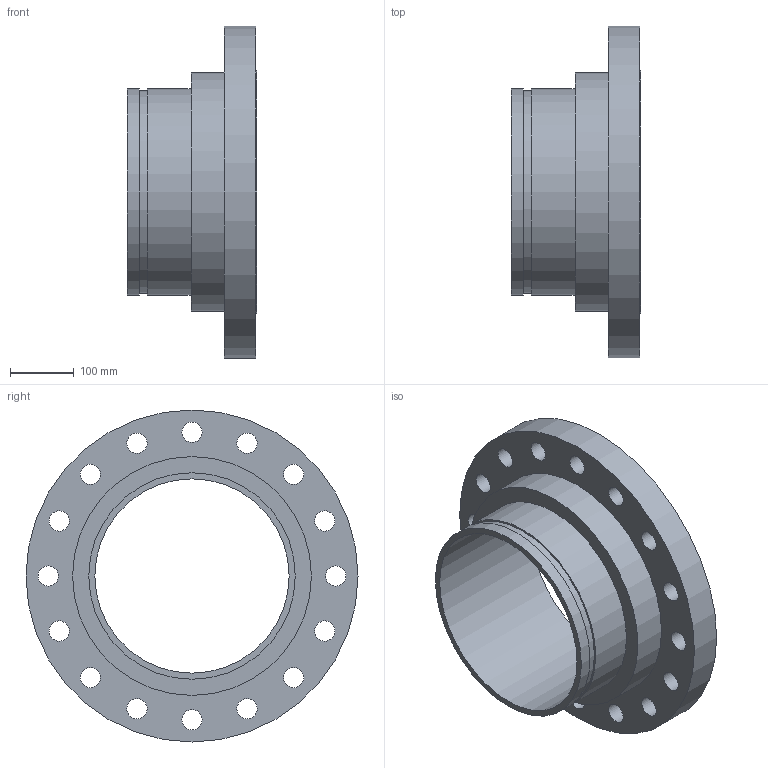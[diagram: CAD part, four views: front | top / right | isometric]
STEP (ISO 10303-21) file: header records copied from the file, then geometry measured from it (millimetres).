
FILE_DESCRIPTION(/* description */ ('VIC FLANGE ADAPTER No 46R','CAx-IF Rec.Pracs.---Representation and Presentation of Product Manufacturing Information (PMI)---4.0---2014-10-13'),/* implementation_level */ '2;1');
FILE_NAME(/* name */ 'C:\Users\kkamble\AppData\Roaming\Autodesk\ApplicationPlugins\Back Up\Victaulic_IPS_Flanged Adapter Nipple_CL 300 RF_No 46R (OGSxFLG)\Victaulic_IPS_Flanged Adapter Nipple_CL 300 RF_No 46R (OGSxFLG)_12 (300).stp',/* time_stamp */ '2020-07-26T22:26:06+06:00',/* author */ ('CONSTRUCTION PIPING SERVICES'),/* organization */ ('Victaulic'),/* preprocessor_version */ 'ST-DEVELOPER v17.2',/* originating_system */ 'Autodesk Inventor 2019',/* authorisation */ '');
FILE_SCHEMA (('AP242_MANAGED_MODEL_BASED_3D_ENGINEERING_MIM_LF { 1 0 10303 442 1 1 4 }'));
Length unit declared in the file: inch
Products named in the file (1): 046R-12.0
Bounding box: 203.2 x 520.7 x 520.7 mm (x, y, z)
Volume: 9191911.8 mm3; surface area: 779060.3 mm2
Topology: 1 solids, 1 shells, 30 faces, 83 edges, 60 vertices
Faces by surface type: cylinder 23, plane 7
Full cylindrical faces by diameter (mm): 31.75 x16, 304.8 x1, 318.287 x1, 323.85 x2, 374.65 x1, 381 x1, 520.7 x1
Entity records: 1169 total; most frequent: DIRECTION 205, CARTESIAN_POINT 174, ORIENTED_EDGE 166, AXIS2_PLACEMENT_3D 91, EDGE_CURVE 83, EDGE_LOOP 69, CIRCLE 60, VERTEX_POINT 60
